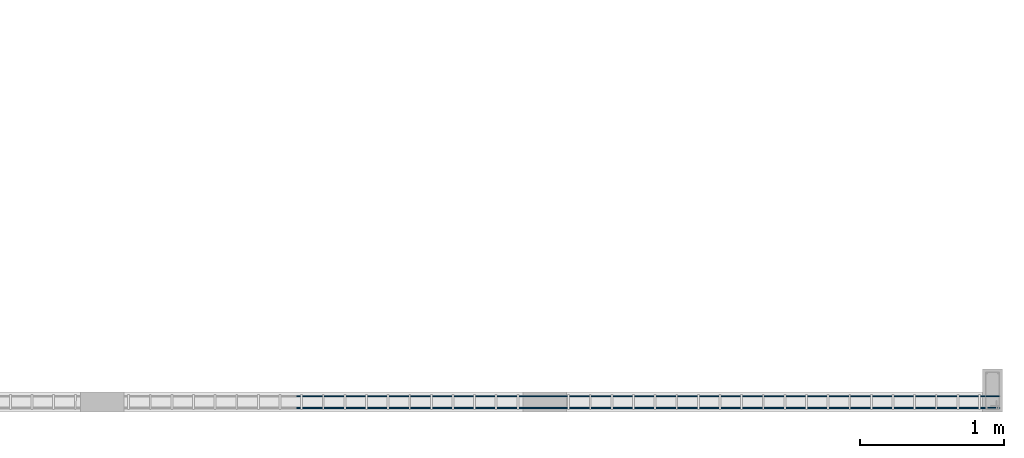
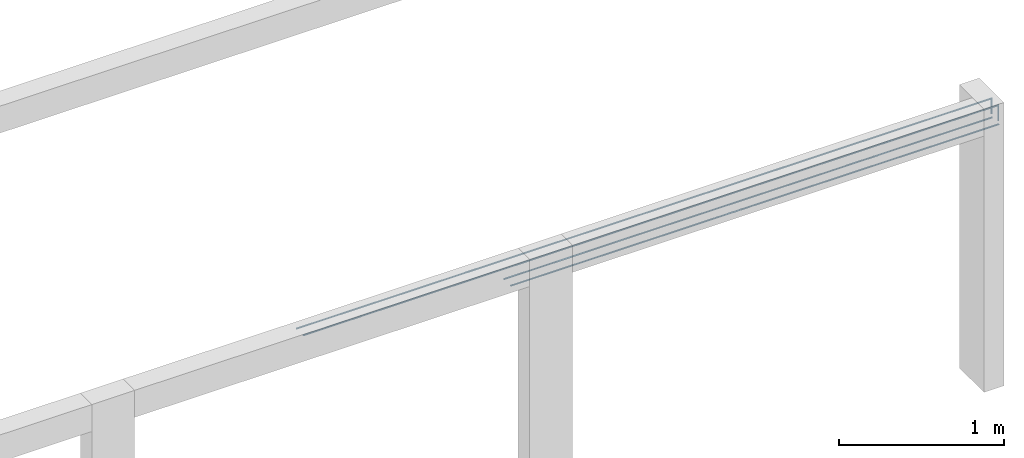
# One storey, part 104 of 236: 4 reinforcing bars.
"""IFC4 building model written with IfcOpenShell, lengths in centimetres."""

from ifc_helpers import new_model, entity, si_unit, derived_unit, frame, origin_with_axes, place, context, project, spatial, element, save


model = new_model("IFC4")

# Units and contexts
model_context = context("Model", 3, precision=1e-05, world=origin_with_axes(), identifier="Body")
ifc_project = project(units=[si_unit("LENGTHUNIT", "METRE", prefix="CENTI"), si_unit("VOLUMEUNIT", "CUBIC_METRE"), si_unit("AREAUNIT", "SQUARE_METRE"), si_unit("POWERUNIT", "WATT"), si_unit("LUMINOUSFLUXUNIT", "LUMEN"), si_unit("ELECTRICCURRENTUNIT", "AMPERE"), si_unit("PRESSUREUNIT", "PASCAL", prefix="KILO"), si_unit("MASSUNIT", "GRAM", prefix="KILO"), si_unit("PLANEANGLEUNIT", "RADIAN"), derived_unit("VOLUMETRICFLOWRATEUNIT", [(si_unit("LENGTHUNIT", "METRE"), 3), (si_unit("TIMEUNIT", "SECOND"), -1)])], contexts=[model_context])

# Site, building, storey
site_placement = place(None, frame((-4000.0, 0.0, 0.0), z_axis=(0.0, 0.0, 1.0), x_axis=(1.0, 0.0, 0.0)))
site = spatial("IfcSite", under=ifc_project, at=site_placement, Name="PADRÃO")
building_placement = place(site_placement, frame((0.0, 0.0, -14.0)))
building = spatial("IfcBuilding", under=site, at=building_placement, Name="CRECHE PRÉ-ESCOLA TIPO 2")
placement_1 = place(building_placement, origin_with_axes())
placement_2 = place(placement_1, frame((0.0, 0.0, 30.0), z_axis=(0.0, 0.0, 1.0), x_axis=(1.0, 0.0, 0.0)))
storey_placement = place(placement_2, frame((0.0, 0.0, 310.0), z_axis=(0.0, 0.0, 1.0), x_axis=(1.0, 0.0, 0.0)))
storey = spatial("IfcBuildingStorey", under=building, at=storey_placement, Name="TERREO", CompositionType="ELEMENT", Elevation=326.0)

# Reinforcing bars
for number, where, z_axis, x_axis, name in (
    (1, (3825.90707995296, 4.9, -116.7), (0.0, 0.0, 1.0), (1.0, 0.0, 0.0), "V323 - Longitudinal inferior"),
    (2, (3825.90707995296, 13.1, -116.7), (0.0, 0.0, 1.0), (1.0, 0.0, 0.0), "V323 - Longitudinal inferior"),
):
    element("IfcReinforcingBar", number, at=place(storey_placement, frame(where, z_axis=z_axis, x_axis=x_axis)), inside=storey, Name=name, BarLength=0.0, CrossSectionArea=5.0265482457e-05, NominalDiameter=0.8, PredefinedType="MAIN", context=model_context, shape_type="AdvancedSweptSolid", body=[
        entity("IfcSweptDiskSolid", entity("IfcCompositeCurve", [entity("IfcCompositeCurveSegment", "CONTINUOUS", True, entity("IfcPolyline", [entity("IfcCartesianPoint", [-171.092920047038, 0.0, -0.4]), entity("IfcCartesianPoint", [171.092920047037, 0.0, -0.4])]))], False), 0.4),
    ])
for number, where, z_axis, x_axis, name in (
    (3, (3753.21612636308, 4.9, -102.496249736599), (0.0, 0.0, 1.0), (1.0, 0.0, 0.0), "V323 - Longitudinal superior"),
    (4, (3753.21612636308, 13.1, -102.496249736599), (0.0, 0.0, 1.0), (1.0, 0.0, 0.0), "V323 - Longitudinal superior"),
):
    element("IfcReinforcingBar", number, at=place(storey_placement, frame(where, z_axis=z_axis, x_axis=x_axis)), inside=storey, Name=name, BarLength=0.0, CrossSectionArea=5.0265482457e-05, NominalDiameter=0.8, PredefinedType="MAIN", context=model_context, shape_type="AdvancedSweptSolid", body=[
        entity("IfcSweptDiskSolid", entity("IfcCompositeCurve", [entity("IfcCompositeCurveSegment", "CONTINUOUS", True, entity("IfcPolyline", [entity("IfcCartesianPoint", [-243.787623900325, 0.0, -0.403750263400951]), entity("IfcCartesianPoint", [243.383873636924, 0.0, -0.403750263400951])])), entity("IfcCompositeCurveSegment", "CONTINUOUS", True, entity("IfcPolyline", [entity("IfcCartesianPoint", [243.383873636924, 0.0, -0.403750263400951]), entity("IfcCartesianPoint", [243.383873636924, 0.0, -11.5526065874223])]))], False), 0.4),
    ])

save(model, "model.ifc")
